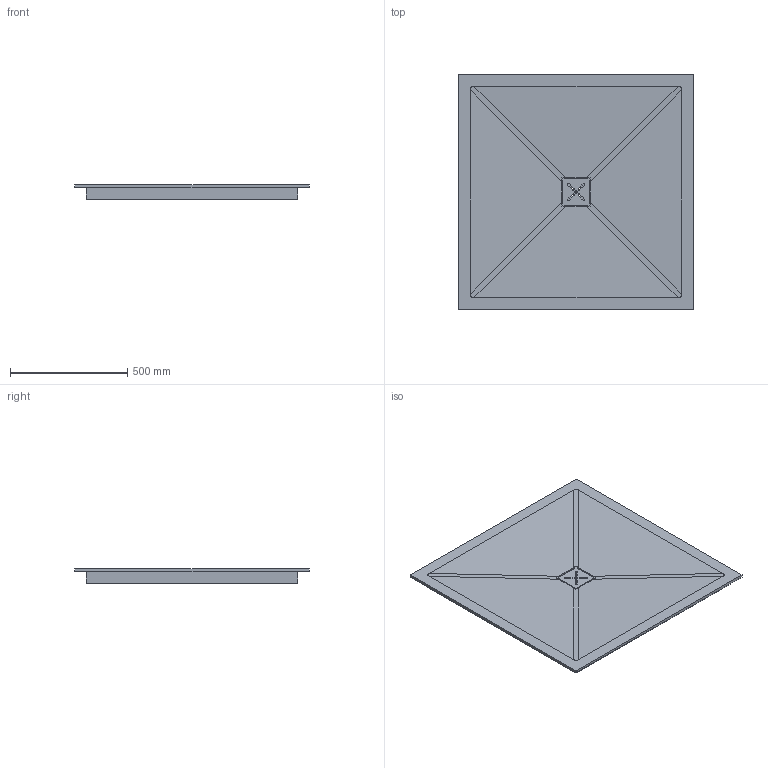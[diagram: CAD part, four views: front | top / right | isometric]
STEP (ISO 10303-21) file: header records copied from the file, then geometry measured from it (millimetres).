
FILE_DESCRIPTION (( 'STEP AP214' ), '1' );
FILE_NAME ('FOSTER 100x100.STEP', '2024-05-14T06:49:36', ( '' ), ( '' ), 'SwSTEP 2.0', 'SolidWorks 2021', '' );
FILE_SCHEMA (( 'AUTOMOTIVE_DESIGN' ));
Length unit declared in the file: millimetre
Products named in the file (1): FOSTER 100x100
Bounding box: 1000 x 1000 x 62 mm (x, y, z)
Volume: 14215608.8 mm3; surface area: 2438204.2 mm2
Topology: 1 solids, 1 shells, 199 faces, 510 edges, 318 vertices
Faces by surface type: plane 75, cylinder 66, bspline 58
Full cylindrical faces by diameter (mm): 8 x1, 52 x1
Entity records: 10121 total; most frequent: CARTESIAN_POINT 5977, ORIENTED_EDGE 1008, DIRECTION 548, EDGE_CURVE 504, VERTEX_POINT 316, VECTOR 244, LINE 244, B_SPLINE_CURVE_WITH_KNOTS 230
